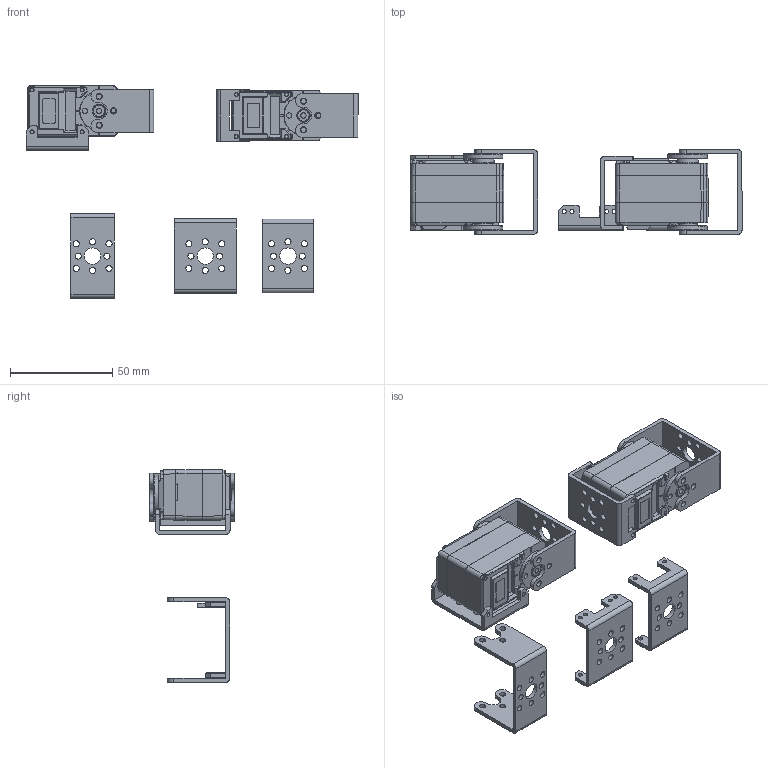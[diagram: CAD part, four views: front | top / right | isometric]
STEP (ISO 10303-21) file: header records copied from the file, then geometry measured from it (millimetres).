
FILE_DESCRIPTION(/* description */ (''),/* implementation_level */ '2;1');
FILE_NAME(/* name */ 'Assieme_flangie_sts3215.stp',/* time_stamp */ '2025-07-25T20:45:31+02:00',/* author */ ('R5800u'),/* organization */ (''),/* preprocessor_version */ 'ST-DEVELOPER v20',/* originating_system */ 'Autodesk Inventor 2025',/* authorisation */ '');
FILE_SCHEMA (('AUTOMOTIVE_DESIGN { 1 0 10303 214 3 1 1 }'));
Products named in the file (14): Assieme_flangie_sts3215; flangia3; Сборка14_3; SCS215_7_3; ZK_122; SG-ZIJI_15; XG-ZIJI_16; MOTOR-1723_3; PCB-CHAZUO_92; GE_27; 金属舵盘（驱动）; 金属舵盘（从动）; flangia1; flangia2
Assembly tree (18 placements, depth 4):
  Assieme_flangie_sts3215
    flangia1  x3
    flangia2  x2
    flangia3  x2
    Сборка14_3  x2
      SCS215_7_3
        ZK_122
        SG-ZIJI_15
        XG-ZIJI_16
        MOTOR-1723_3
        PCB-CHAZUO_92
        GE_27
        金属舵盘（驱动）
        金属舵盘（从动）
Bounding box: 161.98 x 41.3 x 103.83 mm (x, y, z)
Volume: 105855.1 mm3; surface area: 65823.3 mm2
Topology: 23 solids, 43 shells, 2457 faces, 6633 edges, 4348 vertices
Faces by surface type: cylinder 1077, plane 974, bspline 240, cone 96, torus 42, sphere 28
Full cylindrical faces by diameter (mm): 1 x2, 1.2 x2, 1.5 x2, 1.6 x24, 2 x22, 2.2 x16, 2.5 x66, 2.6 x2, 3 x74, 3.2 x2, 3.5 x6, 4 x2, 4.7 x2, 5 x4, 6 x6, 6.05 x2, 6.1 x2, 6.2 x2, 6.5 x4, 8 x9, 8.92 x2, 10 x2, 10.5 x2, 10.6 x2, 13.8 x2, 17.05 x2, 19.2 x4
Entity records: 55653 total; most frequent: CARTESIAN_POINT 24860, ORIENTED_EDGE 6526, DIRECTION 6139, EDGE_CURVE 3263, AXIS2_PLACEMENT_3D 2258, VERTEX_POINT 2145, LINE 1623, VECTOR 1623
